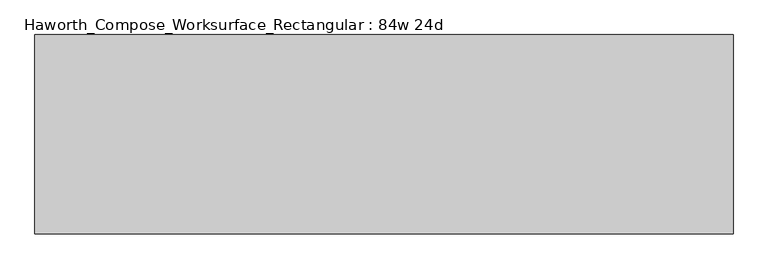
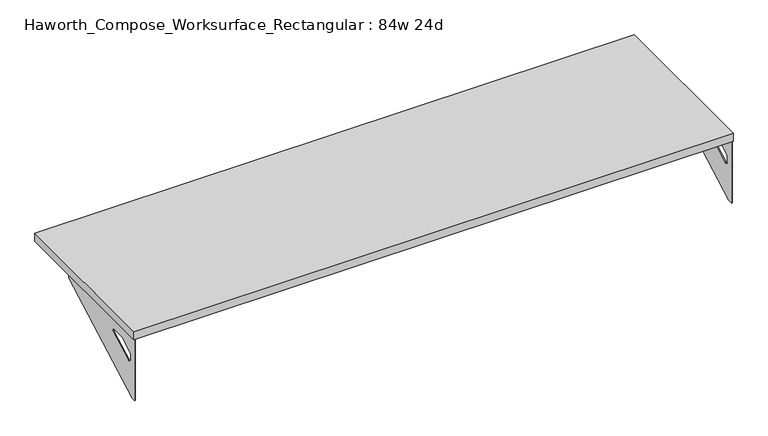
"""IFC4 building model written with IfcOpenShell, lengths in millimetres: furniture geometry, Haworth_Compose_Worksurface_Rectangular : 84w 24d."""

from ifc_helpers import new_model, si_unit, frame, origin, place, context, project, spatial, polyline, circle_curve, outline, extrude, source, transform, mapped, element, save
from ifc_brep_helpers import plane_surface, revolved_surface, advanced_brep


def haworth_compose_worksurface_rectangular_84w_24d_f69e82ab(model_context):
    return source(origin(), model_context, "Body", "SolidModel", [
        advanced_brep(
        [(1061.24375, -304.8, 475.45625), (1061.24375, -304.8, 704.05625), (1061.24375, -288.925, 704.05625), (1061.24375, 101.6, 704.05625), (1061.24375, 101.6, 691.7192568), (1061.24375, -288.925, 475.45625), (1061.24375, -221.490072, 665.95625), (1061.24375, -224.5663437, 665.1613425), (1061.24375, -274.4730055, 637.5242776), (1061.24375, -276.225, 634.6860246), (1061.24375, -276.225, 611.1756969), (1061.24375, -266.8776173, 605.5776439), (1061.24375, -175.1564235, 656.3705539), (1061.24375, -177.8355284, 665.95625), (1063.625, -304.8, 475.45625), (1063.625, -288.925, 475.45625), (1063.625, 101.6, 691.7192568), (1063.625, 101.6, 706.4375), (1063.625, -288.925, 706.4375), (1063.625, -288.925, 704.05625), (1063.625, -304.8, 704.05625), (1063.625, -221.490072, 665.95625), (1063.625, -177.8355284, 665.95625), (1063.625, -175.1564235, 656.3705539), (1063.625, -266.8776173, 605.5776439), (1063.625, -276.225, 611.1756969), (1063.625, -276.225, 634.6860246), (1063.625, -274.4730055, 637.5242776), (1063.625, -224.5663437, 665.1613425), (1022.35, 101.6, 704.05625), (1022.35, 101.6, 706.4375), (1022.35, -288.925, 704.05625), (1022.35, -288.925, 706.4375)],
        [
            (0, 1),
            (1, 2),
            (2, 3),
            (3, 4),
            (4, 5),
            (5, 0),
            (6, 7, circle_curve(frame((1061.24375, -221.490072, 659.60625), z_axis=(1.0, 0.0, 0.0), x_axis=(0.0, 1.0, 0.0)), 6.35)),
            (7, 8),
            (8, 9, circle_curve(frame((1061.24375, -273.05, 634.6860246), z_axis=(1.0, 0.0, 0.0), x_axis=(0.0, 1.0, 0.0)), 3.175)),
            (9, 10),
            (10, 11, circle_curve(frame((1061.24375, -269.875, 611.1756969), z_axis=(1.0, 0.0, 0.0), x_axis=(0.0, 1.0, 0.0)), 6.35)),
            (11, 12),
            (12, 13, circle_curve(frame((1061.24375, -177.8355284, 660.7890106), z_axis=(1.0, 0.0, 0.0), x_axis=(0.0, 1.0, 0.0)), 5.1672394)),
            (13, 6),
            (14, 15),
            (15, 16),
            (16, 17),
            (17, 18),
            (18, 19),
            (19, 20),
            (20, 14),
            (21, 22),
            (22, 23, circle_curve(frame((1063.625, -177.8355284, 660.7890106), z_axis=(-1.0, 0.0, 0.0), x_axis=(0.0, 1.0, 0.0)), 5.1672394)),
            (23, 24),
            (24, 25, circle_curve(frame((1063.625, -269.875, 611.1756969), z_axis=(-1.0, 0.0, 0.0), x_axis=(0.0, 1.0, 0.0)), 6.35)),
            (25, 26),
            (26, 27, circle_curve(frame((1063.625, -273.05, 634.6860246), z_axis=(-1.0, 0.0, 0.0), x_axis=(0.0, 1.0, 0.0)), 3.175)),
            (27, 28),
            (28, 21, circle_curve(frame((1063.625, -221.490072, 659.60625), z_axis=(-1.0, 0.0, 0.0), x_axis=(0.0, 1.0, 0.0)), 6.35)),
            (1, 20),
            (19, 2),
            (0, 14),
            (5, 15),
            (4, 16),
            (3, 29),
            (29, 30),
            (30, 17),
            (13, 22),
            (21, 6),
            (10, 25),
            (24, 11),
            (9, 26),
            (8, 27),
            (12, 23),
            (31, 29),
            (2, 31),
            (32, 18),
            (30, 32),
            (32, 31),
            (7, 28),
        ],
        [
            plane_surface(frame((1061.24375, -304.8, 475.45625), z_axis=(-1.0, 0.0, 0.0), x_axis=(0.0, -1.0, 0.0))),
            plane_surface(frame((1063.625, -304.8, 475.45625), z_axis=(1.0, 0.0, 0.0), x_axis=(0.0, 1.0, 0.0))),
            plane_surface(frame((1063.625, 101.6, 704.05625), z_axis=(0.0, 0.0, 1.0), x_axis=(-1.0, 0.0, 0.0))),
            plane_surface(frame((1063.625, -304.8, 704.05625), z_axis=(0.0, -1.0, 0.0), x_axis=(-1.0, 0.0, 0.0))),
            plane_surface(frame((1063.625, -304.8, 475.45625), z_axis=(0.0, 0.0, -1.0), x_axis=(-1.0, 0.0, 0.0))),
            plane_surface(frame((1063.625, -288.925, 475.45625), z_axis=(0.0, 0.48445223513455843, -0.8748177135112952), x_axis=(-1.0, 0.0, 0.0))),
            plane_surface(frame((1063.625, 101.6, 691.7192568), z_axis=(0.0, 1.0, 0.0), x_axis=(-1.0, 0.0, 0.0))),
            plane_surface(frame((1063.625, -221.490072, 665.95625), z_axis=(0.0, 0.0, -1.0), x_axis=(-1.0, 0.0, 0.0))),
            revolved_surface(polyline([(1061.24375, -263.525, 611.1756969), (1063.625, -263.525, 611.1756969)]), (1063.625, -269.875, 611.1756969), (-1.0, 0.0, 0.0)),
            plane_surface(frame((1063.625, -276.225, 611.1756969), z_axis=(0.0, 1.0, 0.0), x_axis=(-1.0, 0.0, 0.0))),
            revolved_surface(polyline([(1061.24375, -269.875, 634.6860246), (1063.625, -269.875, 634.6860246)]), (1063.625, -273.05, 634.6860246), (-1.0, 0.0, 0.0)),
            revolved_surface(polyline([(1061.24375, -172.668289, 660.7890106), (1063.625, -172.668289, 660.7890106)]), (1063.625, -177.8355284, 660.7890106), (-1.0, 0.0, 0.0)),
            plane_surface(frame((1063.625, -288.925, 704.05625), z_axis=(0.0, 0.0, -1.0), x_axis=(-1.0, 0.0, 0.0))),
            plane_surface(frame((1063.625, -288.925, 706.4375), z_axis=(0.0, 0.0, 1.0), x_axis=(1.0, 0.0, 0.0))),
            plane_surface(frame((1022.35, -288.925, 706.4375), z_axis=(0.0, -1.0, 0.0), x_axis=(0.0, 0.0, -1.0))),
            plane_surface(frame((1022.35, 101.6, 706.4375), z_axis=(-1.0, 0.0, 0.0), x_axis=(0.0, 0.0, -1.0))),
            plane_surface(frame((1063.625, -175.1564235, 656.3705539), z_axis=(0.0, -0.4844522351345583, 0.8748177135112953), x_axis=(-1.0, 0.0, 0.0))),
            plane_surface(frame((1063.625, -274.4730055, 637.5242776), z_axis=(0.0, 0.4844522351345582, -0.8748177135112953), x_axis=(-1.0, 0.0, 0.0))),
            revolved_surface(polyline([(1061.24375, -215.140072, 659.60625), (1063.625, -215.140072, 659.60625)]), (1063.625, -221.490072, 659.60625), (-1.0, 0.0, 0.0)),
        ],
        [
            (0, [[1, 2, 3, 4, 5, 6], [7, 8, 9, 10, 11, 12, 13, 14]]),
            (1, [[15, 16, 17, 18, 19, 20, 21], [22, 23, 24, 25, 26, 27, 28, 29]]),
            (2, [[30, -20, 31, -2]]),
            (3, [[-1, 32, -21, -30]]),
            (4, [[-6, 33, -15, -32]]),
            (5, [[-5, 34, -16, -33]]),
            (6, [[-4, 35, 36, 37, -17, -34]]),
            (7, [[-14, 38, -22, 39]]),
            (8, [[-11, 40, -25, 41]]),
            (9, [[-10, 42, -26, -40]]),
            (10, [[-9, 43, -27, -42]]),
            (11, [[-13, 44, -23, -38]]),
            (12, [[45, -35, -3, 46]]),
            (13, [[47, -18, -37, 48]]),
            (14, [[-47, 49, -46, -31, -19]]),
            (15, [[-45, -49, -48, -36]]),
            (16, [[-12, -41, -24, -44]]),
            (17, [[-8, 50, -28, -43]]),
            (18, [[-7, -39, -29, -50]]),
        ],
    ),
        advanced_brep(
        [(-1061.24375, -304.8, 475.45625), (-1061.24375, -288.925, 475.45625), (-1061.24375, 101.6, 691.7192568), (-1061.24375, 101.6, 704.05625), (-1061.24375, -288.925, 704.05625), (-1061.24375, -304.8, 704.05625), (-1061.24375, -221.490072, 665.95625), (-1061.24375, -177.8355284, 665.95625), (-1061.24375, -175.1564235, 656.3705539), (-1061.24375, -266.8776173, 605.5776439), (-1061.24375, -276.225, 611.1756969), (-1061.24375, -276.225, 634.6860246), (-1061.24375, -274.4730055, 637.5242776), (-1061.24375, -224.5663437, 665.1613425), (-1063.625, -304.8, 475.45625), (-1063.625, -304.8, 704.05625), (-1063.625, -288.925, 704.05625), (-1063.625, -288.925, 706.4375), (-1063.625, 101.6, 706.4375), (-1063.625, 101.6, 691.7192568), (-1063.625, -288.925, 475.45625), (-1063.625, -221.490072, 665.95625), (-1063.625, -224.5663437, 665.1613425), (-1063.625, -274.4730055, 637.5242776), (-1063.625, -276.225, 634.6860246), (-1063.625, -276.225, 611.1756969), (-1063.625, -266.8776173, 605.5776439), (-1063.625, -175.1564235, 656.3705539), (-1063.625, -177.8355284, 665.95625), (-1022.35, 101.6, 706.4375), (-1022.35, 101.6, 704.05625), (-1022.35, -288.925, 704.05625), (-1022.35, -288.925, 706.4375)],
        [
            (0, 1),
            (1, 2),
            (2, 3),
            (3, 4),
            (4, 5),
            (5, 0),
            (6, 7),
            (7, 8, circle_curve(frame((-1061.24375, -177.8355284, 660.7890106), z_axis=(-1.0, 0.0, 0.0), x_axis=(0.0, 1.0, 0.0)), 5.1672394)),
            (8, 9),
            (9, 10, circle_curve(frame((-1061.24375, -269.875, 611.1756969), z_axis=(-1.0, 0.0, 0.0), x_axis=(0.0, 1.0, 0.0)), 6.35)),
            (10, 11),
            (11, 12, circle_curve(frame((-1061.24375, -273.05, 634.6860246), z_axis=(-1.0, 0.0, 0.0), x_axis=(0.0, 1.0, 0.0)), 3.175)),
            (12, 13),
            (13, 6, circle_curve(frame((-1061.24375, -221.490072, 659.60625), z_axis=(-1.0, 0.0, 0.0), x_axis=(0.0, 1.0, 0.0)), 6.35)),
            (14, 15),
            (15, 16),
            (16, 17),
            (17, 18),
            (18, 19),
            (19, 20),
            (20, 14),
            (21, 22, circle_curve(frame((-1063.625, -221.490072, 659.60625), z_axis=(1.0, 0.0, 0.0), x_axis=(0.0, 1.0, 0.0)), 6.35)),
            (22, 23),
            (23, 24, circle_curve(frame((-1063.625, -273.05, 634.6860246), z_axis=(1.0, 0.0, 0.0), x_axis=(0.0, 1.0, 0.0)), 3.175)),
            (24, 25),
            (25, 26, circle_curve(frame((-1063.625, -269.875, 611.1756969), z_axis=(1.0, 0.0, 0.0), x_axis=(0.0, 1.0, 0.0)), 6.35)),
            (26, 27),
            (27, 28, circle_curve(frame((-1063.625, -177.8355284, 660.7890106), z_axis=(1.0, 0.0, 0.0), x_axis=(0.0, 1.0, 0.0)), 5.1672394)),
            (28, 21),
            (4, 16),
            (15, 5),
            (14, 0),
            (20, 1),
            (19, 2),
            (18, 29),
            (29, 30),
            (30, 3),
            (6, 21),
            (28, 7),
            (9, 26),
            (25, 10),
            (24, 11),
            (23, 12),
            (27, 8),
            (31, 4),
            (30, 31),
            (32, 29),
            (17, 32),
            (31, 32),
            (22, 13),
        ],
        [
            plane_surface(frame((-1061.24375, -304.8, 475.45625), z_axis=(1.0, 0.0, 0.0), x_axis=(0.0, -1.0, 0.0))),
            plane_surface(frame((-1063.625, -304.8, 475.45625), z_axis=(-1.0, 0.0, 0.0), x_axis=(0.0, 1.0, 0.0))),
            plane_surface(frame((-1063.625, 101.6, 704.05625), z_axis=(0.0, 0.0, 1.0), x_axis=(1.0, 0.0, 0.0))),
            plane_surface(frame((-1063.625, -304.8, 704.05625), z_axis=(0.0, -1.0, 0.0), x_axis=(1.0, 0.0, 0.0))),
            plane_surface(frame((-1063.625, -304.8, 475.45625), z_axis=(0.0, 0.0, -1.0), x_axis=(1.0, 0.0, 0.0))),
            plane_surface(frame((-1063.625, -288.925, 475.45625), z_axis=(0.0, 0.48445223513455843, -0.8748177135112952), x_axis=(1.0, 0.0, 0.0))),
            plane_surface(frame((-1063.625, 101.6, 691.7192568), z_axis=(0.0, 1.0, 0.0), x_axis=(1.0, 0.0, 0.0))),
            plane_surface(frame((-1063.625, -221.490072, 665.95625), z_axis=(0.0, 0.0, -1.0), x_axis=(1.0, 0.0, 0.0))),
            revolved_surface(polyline([(-1061.24375, -263.525, 611.1756969), (-1063.625, -263.525, 611.1756969)]), (-1063.625, -269.875, 611.1756969), (1.0, 0.0, 0.0)),
            plane_surface(frame((-1063.625, -276.225, 611.1756969), z_axis=(0.0, 1.0, 0.0), x_axis=(1.0, 0.0, 0.0))),
            revolved_surface(polyline([(-1061.24375, -269.875, 634.6860246), (-1063.625, -269.875, 634.6860246)]), (-1063.625, -273.05, 634.6860246), (1.0, 0.0, 0.0)),
            revolved_surface(polyline([(-1061.24375, -172.668289, 660.7890106), (-1063.625, -172.668289, 660.7890106)]), (-1063.625, -177.8355284, 660.7890106), (1.0, 0.0, 0.0)),
            plane_surface(frame((-1063.625, -288.925, 704.05625), z_axis=(0.0, 0.0, -1.0), x_axis=(1.0, 0.0, 0.0))),
            plane_surface(frame((-1063.625, -288.925, 706.4375), z_axis=(0.0, 0.0, 1.0), x_axis=(-1.0, 0.0, 0.0))),
            plane_surface(frame((-1022.35, -288.925, 706.4375), z_axis=(0.0, -1.0, 0.0), x_axis=(0.0, 0.0, -1.0))),
            plane_surface(frame((-1022.35, 101.6, 706.4375), z_axis=(1.0, 0.0, 0.0), x_axis=(0.0, 0.0, -1.0))),
            plane_surface(frame((-1063.625, -175.1564235, 656.3705539), z_axis=(0.0, -0.4844522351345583, 0.8748177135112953), x_axis=(1.0, 0.0, 0.0))),
            plane_surface(frame((-1063.625, -274.4730055, 637.5242776), z_axis=(0.0, 0.4844522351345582, -0.8748177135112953), x_axis=(1.0, 0.0, 0.0))),
            revolved_surface(polyline([(-1061.24375, -215.140072, 659.60625), (-1063.625, -215.140072, 659.60625)]), (-1063.625, -221.490072, 659.60625), (1.0, 0.0, 0.0)),
        ],
        [
            (0, [[1, 2, 3, 4, 5, 6], [7, 8, 9, 10, 11, 12, 13, 14]]),
            (1, [[15, 16, 17, 18, 19, 20, 21], [22, 23, 24, 25, 26, 27, 28, 29]]),
            (2, [[-5, 30, -16, 31]]),
            (3, [[-31, -15, 32, -6]]),
            (4, [[-32, -21, 33, -1]]),
            (5, [[-33, -20, 34, -2]]),
            (6, [[-34, -19, 35, 36, 37, -3]]),
            (7, [[38, -29, 39, -7]]),
            (8, [[40, -26, 41, -10]]),
            (9, [[-41, -25, 42, -11]]),
            (10, [[-42, -24, 43, -12]]),
            (11, [[-39, -28, 44, -8]]),
            (12, [[45, -4, -37, 46]]),
            (13, [[47, -35, -18, 48]]),
            (14, [[-17, -30, -45, 49, -48]]),
            (15, [[-36, -47, -49, -46]]),
            (16, [[-44, -27, -40, -9]]),
            (17, [[-43, -23, 50, -13]]),
            (18, [[-50, -22, -38, -14]]),
        ],
    ),
        extrude(outline(polyline([(1066.8, -304.8), (-1066.8, -304.8), (-1066.8, 304.8), (1066.8, 304.8), (1066.8, -304.8)])), frame((0.0, 0.0, 706.4375), z_axis=(0.0, 0.0, 1.0), x_axis=(1.0, 0.0, 0.0)), (0.0, 0.0, 1.0), 30.1625),
    ])


if __name__ == "__main__":
    model = new_model("IFC4")
    model_context = context("Model", 3, world=origin())
    ifc_project = project(units=[si_unit("LENGTHUNIT", "METRE", prefix="MILLI")], contexts=[model_context])
    site = spatial("IfcSite", under=ifc_project)
    building = spatial("IfcBuilding", under=site)
    placement = place(None, origin())
    haworth_compose_worksurface_rectangular_84w_24d_shape = haworth_compose_worksurface_rectangular_84w_24d_f69e82ab(model_context)
    element("IfcFurniture", 1, ObjectType="Haworth_Compose_Worksurface_Rectangular : 84w 24d", at=placement, inside=building, context=model_context, shape_type="MappedRepresentation", body=[
        mapped(haworth_compose_worksurface_rectangular_84w_24d_shape, transform((0.0, 0.0, 0.0), x_axis=(1.0, 0.0, 0.0), y_axis=(0.0, 1.0, 0.0), z_axis=(0.0, 0.0, 1.0))),
    ])
    save(model, "model.ifc")
